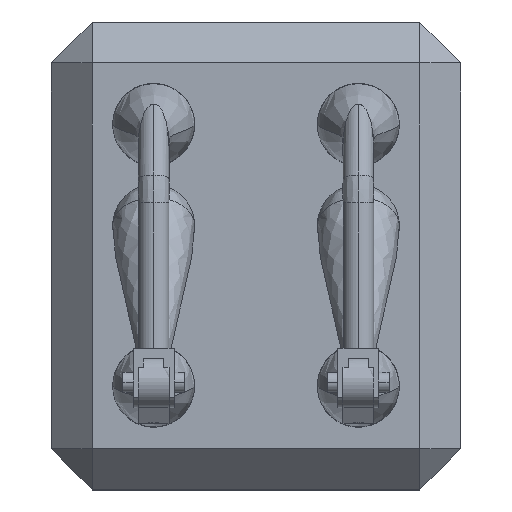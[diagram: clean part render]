
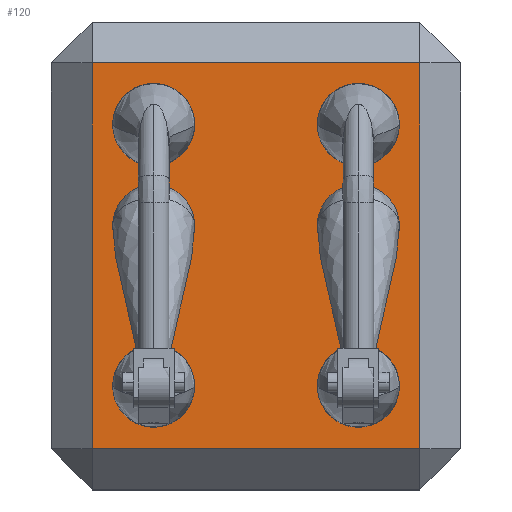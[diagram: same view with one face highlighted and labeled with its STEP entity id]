
A CAD part, top view. The second image highlights one B-rep face of the part: STEP entity #120.
In plain terms, the highlighted planar face has unit normal (0, 0, 1).
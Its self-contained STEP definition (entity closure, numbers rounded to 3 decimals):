
#20=FACE_BOUND('',#405,.T.);
#21=FACE_BOUND('',#406,.T.);
#22=FACE_BOUND('',#407,.T.);
#23=FACE_BOUND('',#408,.T.);
#24=FACE_BOUND('',#409,.T.);
#25=FACE_BOUND('',#410,.T.);
#120=ADVANCED_FACE('',(#259,#20,#21,#22,#23,#24,#25),#1992,.T.);
#259=FACE_OUTER_BOUND('',#404,.T.);
#404=EDGE_LOOP('',(#905,#906,#907,#908));
#405=EDGE_LOOP('',(#909,#910));
#406=EDGE_LOOP('',(#911,#912));
#407=EDGE_LOOP('',(#913,#914));
#408=EDGE_LOOP('',(#915,#916));
#409=EDGE_LOOP('',(#917,#918));
#410=EDGE_LOOP('',(#919,#920));
#905=ORIENTED_EDGE('',*,*,#1332,.T.);
#906=ORIENTED_EDGE('',*,*,#1330,.T.);
#907=ORIENTED_EDGE('',*,*,#1331,.F.);
#908=ORIENTED_EDGE('',*,*,#1329,.F.);
#909=ORIENTED_EDGE('',*,*,#1421,.F.);
#910=ORIENTED_EDGE('',*,*,#1369,.F.);
#911=ORIENTED_EDGE('',*,*,#1429,.F.);
#912=ORIENTED_EDGE('',*,*,#1370,.F.);
#913=ORIENTED_EDGE('',*,*,#1414,.F.);
#914=ORIENTED_EDGE('',*,*,#1368,.F.);
#915=ORIENTED_EDGE('',*,*,#1393,.F.);
#916=ORIENTED_EDGE('',*,*,#1372,.F.);
#917=ORIENTED_EDGE('',*,*,#1401,.F.);
#918=ORIENTED_EDGE('',*,*,#1373,.F.);
#919=ORIENTED_EDGE('',*,*,#1386,.F.);
#920=ORIENTED_EDGE('',*,*,#1371,.F.);
#1329=EDGE_CURVE('',#1891,#1892,#1502,.T.);
#1330=EDGE_CURVE('',#1893,#1894,#1503,.T.);
#1331=EDGE_CURVE('',#1892,#1894,#1504,.T.);
#1332=EDGE_CURVE('',#1891,#1893,#1505,.T.);
#1368=EDGE_CURVE('',#1909,#1938,#1695,.T.);
#1369=EDGE_CURVE('',#1910,#1942,#1696,.T.);
#1370=EDGE_CURVE('',#1911,#1946,#1697,.T.);
#1371=EDGE_CURVE('',#1912,#1922,#1698,.T.);
#1372=EDGE_CURVE('',#1913,#1926,#1699,.T.);
#1373=EDGE_CURVE('',#1914,#1930,#1700,.T.);
#1386=EDGE_CURVE('',#1922,#1912,#1712,.T.);
#1393=EDGE_CURVE('',#1926,#1913,#1719,.T.);
#1401=EDGE_CURVE('',#1930,#1914,#1727,.T.);
#1414=EDGE_CURVE('',#1938,#1909,#1739,.T.);
#1421=EDGE_CURVE('',#1942,#1910,#1746,.T.);
#1429=EDGE_CURVE('',#1946,#1911,#1754,.T.);
#1502=B_SPLINE_CURVE_WITH_KNOTS('',1,(#4163,#4164),.UNSPECIFIED.,.F.,.F.,
(2,2),(0.4,3.6),.UNSPECIFIED.);
#1503=B_SPLINE_CURVE_WITH_KNOTS('',1,(#4165,#4166),.UNSPECIFIED.,.F.,.F.,
(2,2),(0.4,3.6),.UNSPECIFIED.);
#1504=B_SPLINE_CURVE_WITH_KNOTS('',1,(#4167,#4168),.UNSPECIFIED.,.F.,.F.,
(2,2),(0.4,4.17),.UNSPECIFIED.);
#1505=B_SPLINE_CURVE_WITH_KNOTS('',1,(#4169,#4170),.UNSPECIFIED.,.F.,.F.,
(2,2),(0.4,4.17),.UNSPECIFIED.);
#1695=(
BOUNDED_CURVE()
B_SPLINE_CURVE(2,(#4261,#4262,#4263,#4264,#4265),.UNSPECIFIED.,.F.,.F.)
B_SPLINE_CURVE_WITH_KNOTS((3,2,3),(-2.513,-1.885,
-1.257),.UNSPECIFIED.)
CURVE()
GEOMETRIC_REPRESENTATION_ITEM()
RATIONAL_B_SPLINE_CURVE((1.,0.707,1.,0.707,1.))
REPRESENTATION_ITEM('')
);
#1696=(
BOUNDED_CURVE()
B_SPLINE_CURVE(2,(#4266,#4267,#4268,#4269,#4270),.UNSPECIFIED.,.F.,.F.)
B_SPLINE_CURVE_WITH_KNOTS((3,2,3),(-2.513,-1.885,
-1.257),.UNSPECIFIED.)
CURVE()
GEOMETRIC_REPRESENTATION_ITEM()
RATIONAL_B_SPLINE_CURVE((1.,0.707,1.,0.707,1.))
REPRESENTATION_ITEM('')
);
#1697=(
BOUNDED_CURVE()
B_SPLINE_CURVE(2,(#4271,#4272,#4273,#4274,#4275),.UNSPECIFIED.,.F.,.F.)
B_SPLINE_CURVE_WITH_KNOTS((3,2,3),(-2.513,-1.885,
-1.257),.UNSPECIFIED.)
CURVE()
GEOMETRIC_REPRESENTATION_ITEM()
RATIONAL_B_SPLINE_CURVE((1.,0.707,1.,0.707,1.))
REPRESENTATION_ITEM('')
);
#1698=(
BOUNDED_CURVE()
B_SPLINE_CURVE(2,(#4276,#4277,#4278,#4279,#4280),.UNSPECIFIED.,.F.,.F.)
B_SPLINE_CURVE_WITH_KNOTS((3,2,3),(-2.513,-1.885,
-1.257),.UNSPECIFIED.)
CURVE()
GEOMETRIC_REPRESENTATION_ITEM()
RATIONAL_B_SPLINE_CURVE((1.,0.707,1.,0.707,1.))
REPRESENTATION_ITEM('')
);
#1699=(
BOUNDED_CURVE()
B_SPLINE_CURVE(2,(#4281,#4282,#4283,#4284,#4285),.UNSPECIFIED.,.F.,.F.)
B_SPLINE_CURVE_WITH_KNOTS((3,2,3),(-2.513,-1.885,
-1.257),.UNSPECIFIED.)
CURVE()
GEOMETRIC_REPRESENTATION_ITEM()
RATIONAL_B_SPLINE_CURVE((1.,0.707,1.,0.707,1.))
REPRESENTATION_ITEM('')
);
#1700=(
BOUNDED_CURVE()
B_SPLINE_CURVE(2,(#4286,#4287,#4288,#4289,#4290),.UNSPECIFIED.,.F.,.F.)
B_SPLINE_CURVE_WITH_KNOTS((3,2,3),(-2.513,-1.885,
-1.257),.UNSPECIFIED.)
CURVE()
GEOMETRIC_REPRESENTATION_ITEM()
RATIONAL_B_SPLINE_CURVE((1.,0.707,1.,0.707,1.))
REPRESENTATION_ITEM('')
);
#1712=(
BOUNDED_CURVE()
B_SPLINE_CURVE(2,(#4344,#4345,#4346,#4347,#4348),.UNSPECIFIED.,.F.,.F.)
B_SPLINE_CURVE_WITH_KNOTS((3,2,3),(-1.257,-0.628,
0.),.UNSPECIFIED.)
CURVE()
GEOMETRIC_REPRESENTATION_ITEM()
RATIONAL_B_SPLINE_CURVE((1.,0.707,1.,0.707,1.))
REPRESENTATION_ITEM('')
);
#1719=(
BOUNDED_CURVE()
B_SPLINE_CURVE(2,(#4366,#4367,#4368,#4369,#4370),.UNSPECIFIED.,.F.,.F.)
B_SPLINE_CURVE_WITH_KNOTS((3,2,3),(-1.257,-0.628,
0.),.UNSPECIFIED.)
CURVE()
GEOMETRIC_REPRESENTATION_ITEM()
RATIONAL_B_SPLINE_CURVE((1.,0.707,1.,0.707,1.))
REPRESENTATION_ITEM('')
);
#1727=(
BOUNDED_CURVE()
B_SPLINE_CURVE(2,(#4392,#4393,#4394,#4395,#4396),.UNSPECIFIED.,.F.,.F.)
B_SPLINE_CURVE_WITH_KNOTS((3,2,3),(-1.257,-0.628,
0.),.UNSPECIFIED.)
CURVE()
GEOMETRIC_REPRESENTATION_ITEM()
RATIONAL_B_SPLINE_CURVE((1.,0.707,1.,0.707,1.))
REPRESENTATION_ITEM('')
);
#1739=(
BOUNDED_CURVE()
B_SPLINE_CURVE(2,(#4450,#4451,#4452,#4453,#4454),.UNSPECIFIED.,.F.,.F.)
B_SPLINE_CURVE_WITH_KNOTS((3,2,3),(-1.257,-0.628,
0.),.UNSPECIFIED.)
CURVE()
GEOMETRIC_REPRESENTATION_ITEM()
RATIONAL_B_SPLINE_CURVE((1.,0.707,1.,0.707,1.))
REPRESENTATION_ITEM('')
);
#1746=(
BOUNDED_CURVE()
B_SPLINE_CURVE(2,(#4472,#4473,#4474,#4475,#4476),.UNSPECIFIED.,.F.,.F.)
B_SPLINE_CURVE_WITH_KNOTS((3,2,3),(-1.257,-0.628,
0.),.UNSPECIFIED.)
CURVE()
GEOMETRIC_REPRESENTATION_ITEM()
RATIONAL_B_SPLINE_CURVE((1.,0.707,1.,0.707,1.))
REPRESENTATION_ITEM('')
);
#1754=(
BOUNDED_CURVE()
B_SPLINE_CURVE(2,(#4498,#4499,#4500,#4501,#4502),.UNSPECIFIED.,.F.,.F.)
B_SPLINE_CURVE_WITH_KNOTS((3,2,3),(-1.257,-0.628,
0.),.UNSPECIFIED.)
CURVE()
GEOMETRIC_REPRESENTATION_ITEM()
RATIONAL_B_SPLINE_CURVE((1.,0.707,1.,0.707,1.))
REPRESENTATION_ITEM('')
);
#1891=VERTEX_POINT('',#3321);
#1892=VERTEX_POINT('',#3322);
#1893=VERTEX_POINT('',#3323);
#1894=VERTEX_POINT('',#3324);
#1909=VERTEX_POINT('',#3339);
#1910=VERTEX_POINT('',#3340);
#1911=VERTEX_POINT('',#3341);
#1912=VERTEX_POINT('',#3342);
#1913=VERTEX_POINT('',#3343);
#1914=VERTEX_POINT('',#3344);
#1922=VERTEX_POINT('',#3352);
#1926=VERTEX_POINT('',#3356);
#1930=VERTEX_POINT('',#3360);
#1938=VERTEX_POINT('',#3368);
#1942=VERTEX_POINT('',#3372);
#1946=VERTEX_POINT('',#3376);
#1992=PLANE('',#2181);
#2181=AXIS2_PLACEMENT_3D('',#2429,#2283,$);
#2283=DIRECTION('',(0.,0.,1.));
#2429=CARTESIAN_POINT('',(-2.,-2.28,2.));
#3321=CARTESIAN_POINT('',(-1.6,1.89,2.));
#3322=CARTESIAN_POINT('',(1.6,1.89,2.));
#3323=CARTESIAN_POINT('',(-1.6,-1.88,2.));
#3324=CARTESIAN_POINT('',(1.6,-1.88,2.));
#3339=CARTESIAN_POINT('',(-1.4,-1.27,2.));
#3340=CARTESIAN_POINT('',(-1.4,1.284,2.));
#3341=CARTESIAN_POINT('',(-1.4,0.296,2.));
#3342=CARTESIAN_POINT('',(0.6,-1.27,2.));
#3343=CARTESIAN_POINT('',(0.6,1.284,2.));
#3344=CARTESIAN_POINT('',(0.6,0.296,2.));
#3352=CARTESIAN_POINT('',(1.4,-1.27,2.));
#3356=CARTESIAN_POINT('',(1.4,1.284,2.));
#3360=CARTESIAN_POINT('',(1.4,0.296,2.));
#3368=CARTESIAN_POINT('',(-0.6,-1.27,2.));
#3372=CARTESIAN_POINT('',(-0.6,1.284,2.));
#3376=CARTESIAN_POINT('',(-0.6,0.296,2.));
#4163=CARTESIAN_POINT('',(-1.6,1.89,2.));
#4164=CARTESIAN_POINT('',(1.6,1.89,2.));
#4165=CARTESIAN_POINT('',(-1.6,-1.88,2.));
#4166=CARTESIAN_POINT('',(1.6,-1.88,2.));
#4167=CARTESIAN_POINT('',(1.6,1.89,2.));
#4168=CARTESIAN_POINT('',(1.6,-1.88,2.));
#4169=CARTESIAN_POINT('',(-1.6,1.89,2.));
#4170=CARTESIAN_POINT('',(-1.6,-1.88,2.));
#4261=CARTESIAN_POINT('',(-1.4,-1.27,2.));
#4262=CARTESIAN_POINT('',(-1.4,-1.67,2.));
#4263=CARTESIAN_POINT('',(-1.,-1.67,2.));
#4264=CARTESIAN_POINT('',(-0.6,-1.67,2.));
#4265=CARTESIAN_POINT('',(-0.6,-1.27,2.));
#4266=CARTESIAN_POINT('',(-1.4,1.284,2.));
#4267=CARTESIAN_POINT('',(-1.4,0.884,2.));
#4268=CARTESIAN_POINT('',(-1.,0.884,2.));
#4269=CARTESIAN_POINT('',(-0.6,0.884,2.));
#4270=CARTESIAN_POINT('',(-0.6,1.284,2.));
#4271=CARTESIAN_POINT('',(-1.4,0.296,2.));
#4272=CARTESIAN_POINT('',(-1.4,-0.104,2.));
#4273=CARTESIAN_POINT('',(-1.,-0.104,2.));
#4274=CARTESIAN_POINT('',(-0.6,-0.104,2.));
#4275=CARTESIAN_POINT('',(-0.6,0.296,2.));
#4276=CARTESIAN_POINT('',(0.6,-1.27,2.));
#4277=CARTESIAN_POINT('',(0.6,-1.67,2.));
#4278=CARTESIAN_POINT('',(1.,-1.67,2.));
#4279=CARTESIAN_POINT('',(1.4,-1.67,2.));
#4280=CARTESIAN_POINT('',(1.4,-1.27,2.));
#4281=CARTESIAN_POINT('',(0.6,1.284,2.));
#4282=CARTESIAN_POINT('',(0.6,0.884,2.));
#4283=CARTESIAN_POINT('',(1.,0.884,2.));
#4284=CARTESIAN_POINT('',(1.4,0.884,2.));
#4285=CARTESIAN_POINT('',(1.4,1.284,2.));
#4286=CARTESIAN_POINT('',(0.6,0.296,2.));
#4287=CARTESIAN_POINT('',(0.6,-0.104,2.));
#4288=CARTESIAN_POINT('',(1.,-0.104,2.));
#4289=CARTESIAN_POINT('',(1.4,-0.104,2.));
#4290=CARTESIAN_POINT('',(1.4,0.296,2.));
#4344=CARTESIAN_POINT('',(1.4,-1.27,2.));
#4345=CARTESIAN_POINT('',(1.4,-0.87,2.));
#4346=CARTESIAN_POINT('',(1.,-0.87,2.));
#4347=CARTESIAN_POINT('',(0.6,-0.87,2.));
#4348=CARTESIAN_POINT('',(0.6,-1.27,2.));
#4366=CARTESIAN_POINT('',(1.4,1.284,2.));
#4367=CARTESIAN_POINT('',(1.4,1.684,2.));
#4368=CARTESIAN_POINT('',(1.,1.684,2.));
#4369=CARTESIAN_POINT('',(0.6,1.684,2.));
#4370=CARTESIAN_POINT('',(0.6,1.284,2.));
#4392=CARTESIAN_POINT('',(1.4,0.296,2.));
#4393=CARTESIAN_POINT('',(1.4,0.696,2.));
#4394=CARTESIAN_POINT('',(1.,0.696,2.));
#4395=CARTESIAN_POINT('',(0.6,0.696,2.));
#4396=CARTESIAN_POINT('',(0.6,0.296,2.));
#4450=CARTESIAN_POINT('',(-0.6,-1.27,2.));
#4451=CARTESIAN_POINT('',(-0.6,-0.87,2.));
#4452=CARTESIAN_POINT('',(-1.,-0.87,2.));
#4453=CARTESIAN_POINT('',(-1.4,-0.87,2.));
#4454=CARTESIAN_POINT('',(-1.4,-1.27,2.));
#4472=CARTESIAN_POINT('',(-0.6,1.284,2.));
#4473=CARTESIAN_POINT('',(-0.6,1.684,2.));
#4474=CARTESIAN_POINT('',(-1.,1.684,2.));
#4475=CARTESIAN_POINT('',(-1.4,1.684,2.));
#4476=CARTESIAN_POINT('',(-1.4,1.284,2.));
#4498=CARTESIAN_POINT('',(-0.6,0.296,2.));
#4499=CARTESIAN_POINT('',(-0.6,0.696,2.));
#4500=CARTESIAN_POINT('',(-1.,0.696,2.));
#4501=CARTESIAN_POINT('',(-1.4,0.696,2.));
#4502=CARTESIAN_POINT('',(-1.4,0.296,2.));
